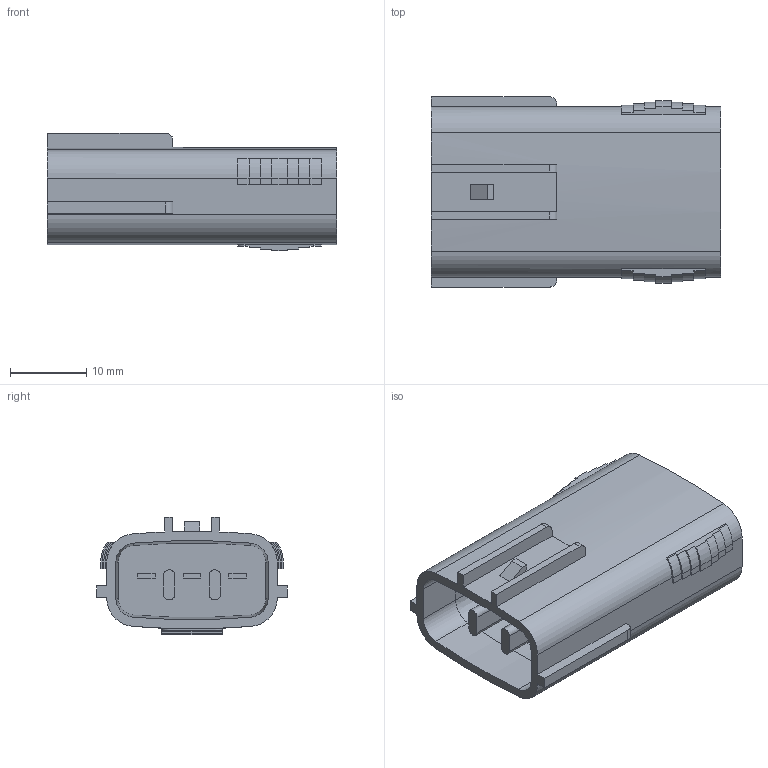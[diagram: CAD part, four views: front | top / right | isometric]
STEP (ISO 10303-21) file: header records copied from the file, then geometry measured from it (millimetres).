
FILE_DESCRIPTION(('CATIA V5 STEP Exchange','CAx-IF Rec.Pracs.--- Model Styling and Organization---1.2---2011-12-15'),'2;1');
FILE_NAME('N:\C-DAM_MyDesk\ENV\900093\6195-0012.stp','2015-06-23T07:23:57+00:00',('none'),('none'),'CATIA Version 5-6 Release 2012 SP4 HF74','CATIA V5 STEP AP214','none');
FILE_SCHEMA(('AUTOMOTIVE_DESIGN { 1 0 10303 214 1 1 1 1 }'));
Length unit declared in the file: millimetre
Products named in the file (1): 6195-0012
Bounding box: 38 x 25 x 15.5 mm (x, y, z)
Volume: 7730.7 mm3; surface area: 4265.9 mm2
Topology: 1 solids, 1 shells, 156 faces, 420 edges, 277 vertices
Faces by surface type: plane 106, cylinder 42, cone 6, bspline 2
Entity records: 4655 total; most frequent: CARTESIAN_POINT 906, ORIENTED_EDGE 840, DIRECTION 636, EDGE_CURVE 420, VECTOR 317, LINE 317, VERTEX_POINT 277, AXIS2_PLACEMENT_3D 208
